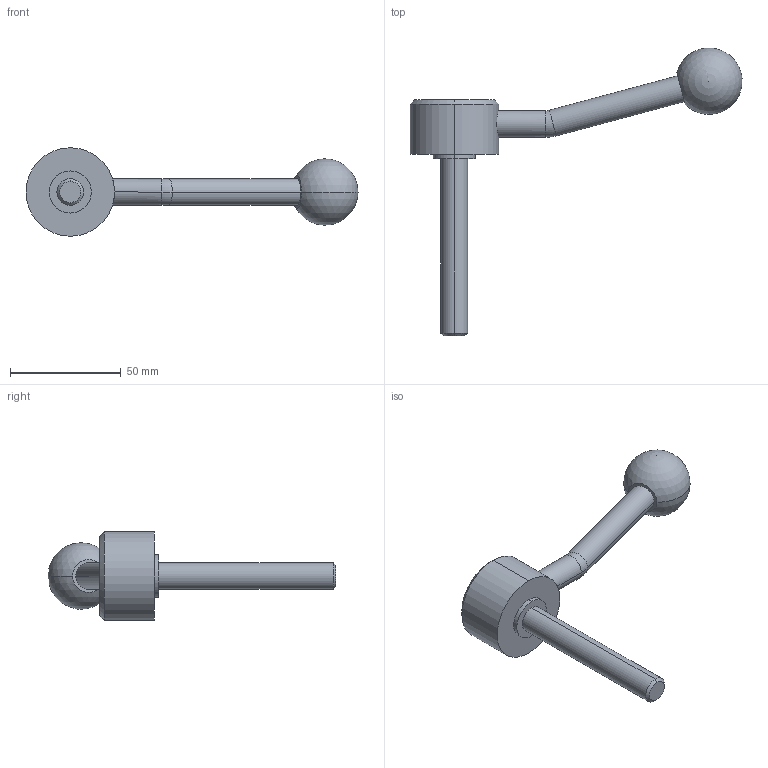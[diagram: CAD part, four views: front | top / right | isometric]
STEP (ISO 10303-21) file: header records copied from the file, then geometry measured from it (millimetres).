
FILE_DESCRIPTION (( 'STEP AP214' ), '1' );
FILE_NAME ('125.5-40-M12-80-E.step', '2020-02-18T11:38:27', ( '' ), ( '' ), 'SwSTEP 2.0', 'SolidWorks 2019', '' );
FILE_SCHEMA (( 'AUTOMOTIVE_DESIGN' ));
Length unit declared in the file: millimetre
Products named in the file (1): 125.5-40-M12-80-E
Bounding box: 149.94 x 129.94 x 40 mm (x, y, z)
Volume: 63795.6 mm3; surface area: 14351.1 mm2
Topology: 1 solids, 1 shells, 26 faces, 55 edges, 34 vertices
Faces by surface type: cylinder 12, plane 6, cone 4, torus 2, sphere 2
Entity records: 850 total; most frequent: CARTESIAN_POINT 192, DIRECTION 134, ORIENTED_EDGE 100, AXIS2_PLACEMENT_3D 59, EDGE_CURVE 50, CIRCLE 32, EDGE_LOOP 31, VERTEX_POINT 31
